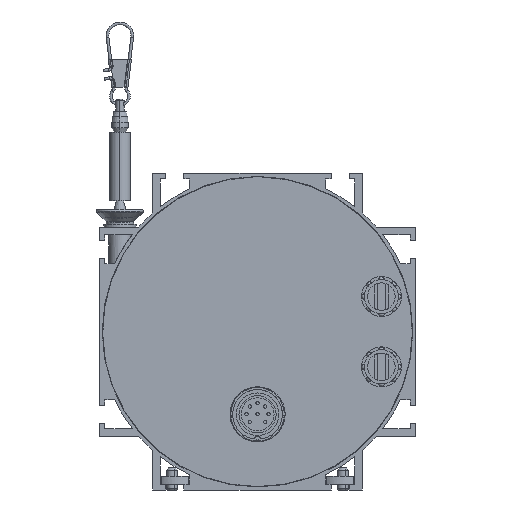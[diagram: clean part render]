
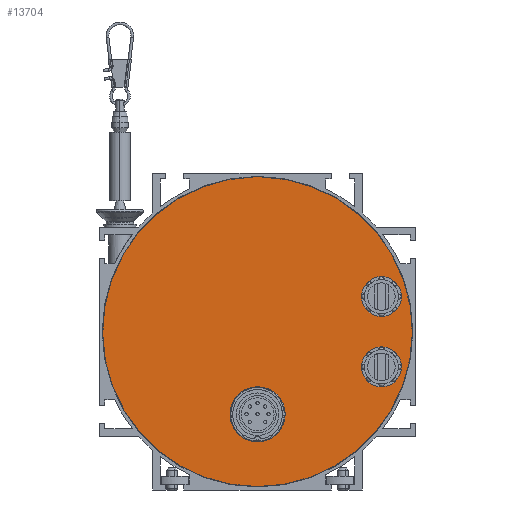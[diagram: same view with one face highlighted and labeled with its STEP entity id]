
A CAD part, left-side view. The second image highlights one B-rep face of the part: STEP entity #13704.
In plain terms, the highlighted planar face has unit normal (-1, 0, 0).
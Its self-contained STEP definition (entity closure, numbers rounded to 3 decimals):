
#4020=CARTESIAN_POINT('',(0.,0.,0.));
#4021=DIRECTION('',(-1.,0.,0.));
#4022=DIRECTION('',(0.,0.019,1.));
#4023=AXIS2_PLACEMENT_3D('',#4020,#4021,#4022);
#4029=DIRECTION('',(0.,1.,0.));
#4030=VECTOR('',#4029,2.121);
#4031=CARTESIAN_POINT('',(0.,-1.061,56.24));
#4032=LINE('',#4031,#4030);
#4033=CARTESIAN_POINT('',(0.,0.,-30.));
#4034=DIRECTION('',(-1.,0.,0.));
#4035=DIRECTION('',(0.,1.,0.));
#4036=AXIS2_PLACEMENT_3D('',#4033,#4034,#4035);
#4038=CARTESIAN_POINT('',(0.,0.,-30.));
#4039=DIRECTION('',(-1.,0.,0.));
#4040=DIRECTION('',(0.,-1.,0.));
#4041=AXIS2_PLACEMENT_3D('',#4038,#4039,#4040);
#4043=CARTESIAN_POINT('',(0.,-45.,-12.75));
#4044=DIRECTION('',(1.,0.,0.));
#4045=DIRECTION('',(0.,1.,0.));
#4046=AXIS2_PLACEMENT_3D('',#4043,#4044,#4045);
#4048=CARTESIAN_POINT('',(0.,-45.,-12.75));
#4049=DIRECTION('',(1.,0.,0.));
#4050=DIRECTION('',(0.,-1.,0.));
#4051=AXIS2_PLACEMENT_3D('',#4048,#4049,#4050);
#4053=CARTESIAN_POINT('',(0.,-45.,12.75));
#4054=DIRECTION('',(1.,0.,0.));
#4055=DIRECTION('',(0.,1.,0.));
#4056=AXIS2_PLACEMENT_3D('',#4053,#4054,#4055);
#4058=CARTESIAN_POINT('',(0.,-45.,12.75));
#4059=DIRECTION('',(1.,0.,0.));
#4060=DIRECTION('',(0.,-1.,0.));
#4061=AXIS2_PLACEMENT_3D('',#4058,#4059,#4060);
#7817=CARTESIAN_POINT('',(0.,10.,-30.));
#7818=CARTESIAN_POINT('',(0.,-10.,-30.));
#7819=VERTEX_POINT('',#7817);
#7820=VERTEX_POINT('',#7818);
#7829=CARTESIAN_POINT('',(0.,-37.75,-12.75));
#7830=CARTESIAN_POINT('',(0.,-52.25,-12.75));
#7831=VERTEX_POINT('',#7829);
#7832=VERTEX_POINT('',#7830);
#7833=CARTESIAN_POINT('',(0.,1.061,56.24));
#7834=VERTEX_POINT('',#7833);
#7835=CARTESIAN_POINT('',(0.,-1.061,56.24));
#7836=VERTEX_POINT('',#7835);
#7982=CARTESIAN_POINT('',(0.,-37.75,12.75));
#7983=CARTESIAN_POINT('',(0.,-52.25,12.75));
#7984=VERTEX_POINT('',#7982);
#7985=VERTEX_POINT('',#7983);
#13677=CARTESIAN_POINT('',(0.,0.,0.));
#13678=DIRECTION('',(1.,0.,0.));
#13679=DIRECTION('',(0.,1.,0.));
#13680=AXIS2_PLACEMENT_3D('',#13677,#13678,#13679);
#13681=PLANE('',#13680);
#13682=ORIENTED_EDGE('',*,*,#13657,.F.);
#13683=ORIENTED_EDGE('',*,*,#13671,.F.);
#13684=EDGE_LOOP('',(#13682,#13683));
#13685=FACE_OUTER_BOUND('',#13684,.F.);
#13687=ORIENTED_EDGE('',*,*,#13686,.T.);
#13689=ORIENTED_EDGE('',*,*,#13688,.T.);
#13690=EDGE_LOOP('',(#13687,#13689));
#13691=FACE_BOUND('',#13690,.F.);
#13693=ORIENTED_EDGE('',*,*,#13692,.F.);
#13695=ORIENTED_EDGE('',*,*,#13694,.F.);
#13696=EDGE_LOOP('',(#13693,#13695));
#13697=FACE_BOUND('',#13696,.F.);
#13699=ORIENTED_EDGE('',*,*,#13698,.F.);
#13701=ORIENTED_EDGE('',*,*,#13700,.F.);
#13702=EDGE_LOOP('',(#13699,#13701));
#13703=FACE_BOUND('',#13702,.F.);
#13704=ADVANCED_FACE('',(#13685,#13691,#13697,#13703),#13681,.F.);
#4024=CIRCLE('',#4023,56.25);
#4037=CIRCLE('',#4036,10.);
#4042=CIRCLE('',#4041,10.);
#4047=CIRCLE('',#4046,7.25);
#4052=CIRCLE('',#4051,7.25);
#4057=CIRCLE('',#4056,7.25);
#4062=CIRCLE('',#4061,7.25);
#13657=EDGE_CURVE('',#7834,#7836,#4024,.T.);
#13671=EDGE_CURVE('',#7836,#7834,#4032,.T.);
#13686=EDGE_CURVE('',#7819,#7820,#4037,.T.);
#13688=EDGE_CURVE('',#7820,#7819,#4042,.T.);
#13692=EDGE_CURVE('',#7831,#7832,#4047,.T.);
#13694=EDGE_CURVE('',#7832,#7831,#4052,.T.);
#13698=EDGE_CURVE('',#7984,#7985,#4057,.T.);
#13700=EDGE_CURVE('',#7985,#7984,#4062,.T.);
